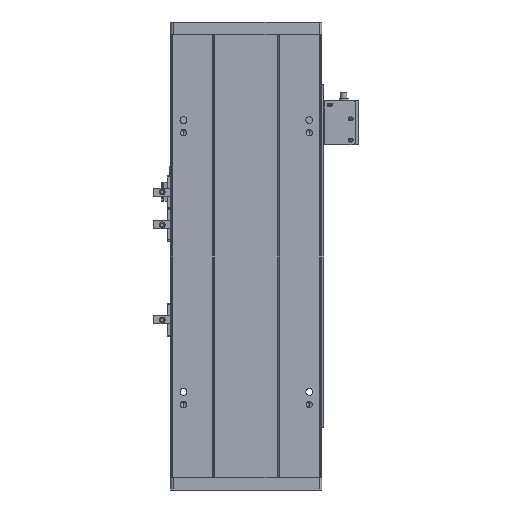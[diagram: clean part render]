
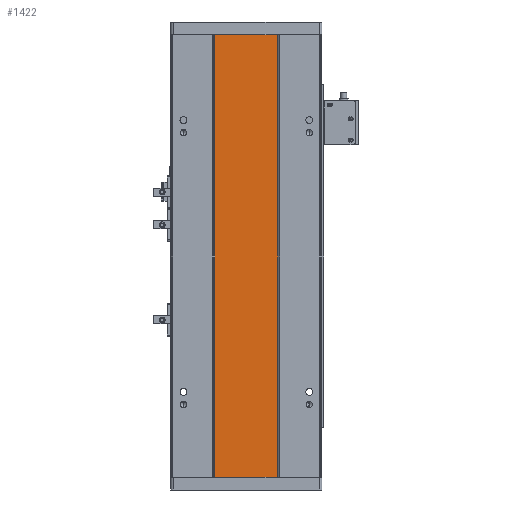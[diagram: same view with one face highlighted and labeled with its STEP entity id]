
A CAD part, front view. The second image highlights one B-rep face of the part: STEP entity #1422.
In plain terms, the highlighted planar face has unit normal (0, -1, 0).
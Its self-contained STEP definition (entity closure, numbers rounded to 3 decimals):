
#347 = VECTOR ( 'NONE', #18324, 1000. ) ;
#396 = CARTESIAN_POINT ( 'NONE',  ( 183.063, 115.96, 352. ) ) ;
#1279 = EDGE_CURVE ( 'NONE', #21883, #21045, #15921, .T. ) ;
#1422 = ADVANCED_FACE ( 'NONE', ( #4229 ), #8011, .F. ) ;
#3346 = LINE ( 'NONE', #4669, #18981 ) ;
#3716 = ORIENTED_EDGE ( 'NONE', *, *, #7668, .T. ) ;
#3764 = VERTEX_POINT ( 'NONE', #10965 ) ;
#4229 = FACE_OUTER_BOUND ( 'NONE', #20991, .T. ) ;
#4499 = CARTESIAN_POINT ( 'NONE',  ( 0., 115.96, 352. ) ) ;
#4669 = CARTESIAN_POINT ( 'NONE',  ( 0., 115.96, 352. ) ) ;
#6386 = DIRECTION ( 'NONE',  ( 1., 0., 0. ) ) ;
#7668 = EDGE_CURVE ( 'NONE', #14714, #3764, #11006, .T. ) ;
#8011 = PLANE ( 'NONE',  #9250 ) ;
#8620 = VECTOR ( 'NONE', #6386, 1000. ) ;
#9250 = AXIS2_PLACEMENT_3D ( 'NONE', #4499, #9871, #13521 ) ;
#9478 = DIRECTION ( 'NONE',  ( 0., 0., -1. ) ) ;
#9871 = DIRECTION ( 'NONE',  ( 0., 1., 0. ) ) ;
#10965 = CARTESIAN_POINT ( 'NONE',  ( 133.07, 115.96, 0. ) ) ;
#11006 = LINE ( 'NONE', #18470, #15193 ) ;
#12169 = CARTESIAN_POINT ( 'NONE',  ( 133.07, 115.96, 352. ) ) ;
#13521 = DIRECTION ( 'NONE',  ( -1., 0., 0. ) ) ;
#13870 = CARTESIAN_POINT ( 'NONE',  ( 183.063, 115.96, 0. ) ) ;
#14703 = CARTESIAN_POINT ( 'NONE',  ( 183.063, 115.96, 352. ) ) ;
#14714 = VERTEX_POINT ( 'NONE', #12169 ) ;
#15193 = VECTOR ( 'NONE', #9478, 1000. ) ;
#15921 = LINE ( 'NONE', #14703, #347 ) ;
#16902 = ORIENTED_EDGE ( 'NONE', *, *, #1279, .F. ) ;
#16932 = ORIENTED_EDGE ( 'NONE', *, *, #21589, .F. ) ;
#18145 = LINE ( 'NONE', #22538, #8620 ) ;
#18324 = DIRECTION ( 'NONE',  ( 0., 0., -1. ) ) ;
#18470 = CARTESIAN_POINT ( 'NONE',  ( 133.07, 115.96, 352. ) ) ;
#18848 = ORIENTED_EDGE ( 'NONE', *, *, #21573, .T. ) ;
#18981 = VECTOR ( 'NONE', #19255, 1000. ) ;
#19255 = DIRECTION ( 'NONE',  ( 1., 0., 0. ) ) ;
#20991 = EDGE_LOOP ( 'NONE', ( #18848, #16902, #16932, #3716 ) ) ;
#21045 = VERTEX_POINT ( 'NONE', #13870 ) ;
#21573 = EDGE_CURVE ( 'NONE', #3764, #21045, #18145, .T. ) ;
#21589 = EDGE_CURVE ( 'NONE', #14714, #21883, #3346, .T. ) ;
#21883 = VERTEX_POINT ( 'NONE', #396 ) ;
#22538 = CARTESIAN_POINT ( 'NONE',  ( 0., 115.96, 0. ) ) ;
